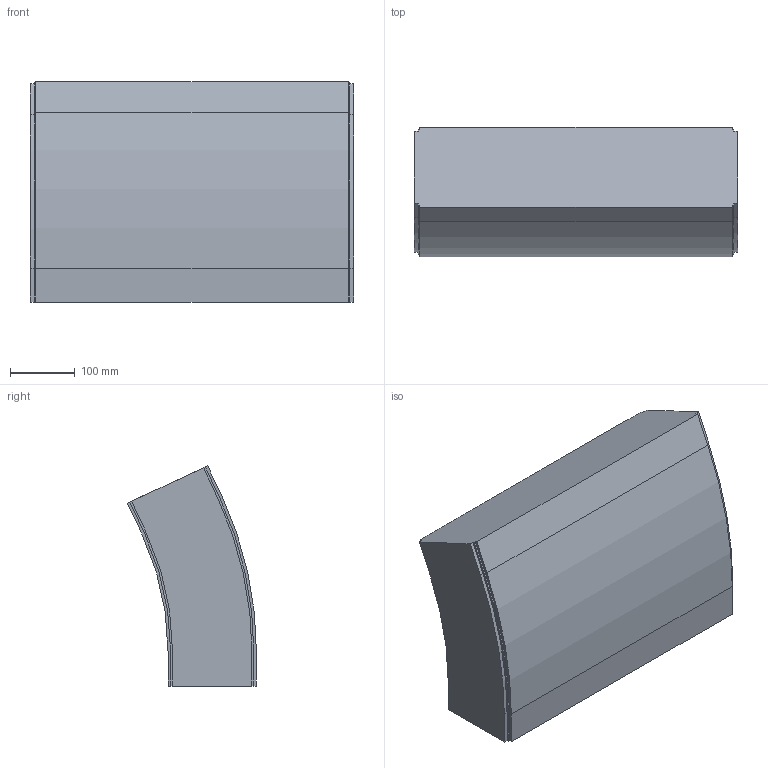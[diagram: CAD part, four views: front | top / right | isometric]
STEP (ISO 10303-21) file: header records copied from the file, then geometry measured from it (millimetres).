
FILE_DESCRIPTION (( 'STEP AP214' ), '1' );
FILE_NAME ('FS-MTC2-150-INOX verticaalbocht.500 25°.STEP', '2017-02-08T12:42:49', ( '' ), ( '' ), 'SwSTEP 2.0', 'SolidWorks 2016', '' );
FILE_SCHEMA (( 'AUTOMOTIVE_DESIGN' ));
Length unit declared in the file: millimetre
Products named in the file (1): FS-MTC2-150-INOX verticaalbocht.500 25°
Bounding box: 499 x 199.14 x 340.23 mm (x, y, z)
Volume: 21946310.6 mm3; surface area: 546564.8 mm2
Topology: 1 solids, 1 shells, 42 faces, 120 edges, 80 vertices
Faces by surface type: plane 32, cylinder 10
Entity records: 1398 total; most frequent: CARTESIAN_POINT 243, ORIENTED_EDGE 240, DIRECTION 226, EDGE_CURVE 120, LINE 100, VECTOR 100, VERTEX_POINT 80, AXIS2_PLACEMENT_3D 63
